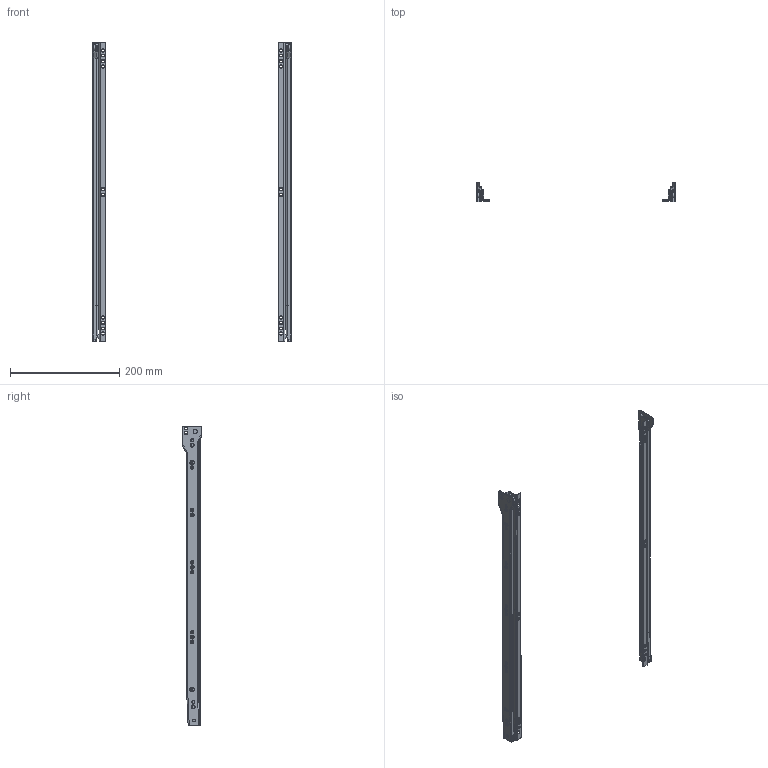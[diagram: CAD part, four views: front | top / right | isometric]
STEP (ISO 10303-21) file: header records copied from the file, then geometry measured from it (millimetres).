
FILE_DESCRIPTION(/* description */ (''),/* implementation_level */ '2;1');
FILE_NAME(/* name */ 'D:\$Workingspace\Designs\Katalog\Cadsoft\GTV Prowadnice\Prowadnice GTV_bryły 3D\PR-0B-550-10.stp',/* time_stamp */ '2016-11-22T15:18:06+01:00',/* author */ ('tomaszw'),/* organization */ (''),/* preprocessor_version */ 'ST-DEVELOPER v16.1',/* originating_system */ 'Autodesk Inventor 2016',/* authorisation */ '');
FILE_SCHEMA (('AUTOMOTIVE_DESIGN { 1 0 10303 214 3 1 1 }'));
Length unit declared in the file: millimetre
Products named in the file (5): PR-0B-550-10_CL; PR-0B-550-10_CR; PR-0B-550-10_DL; PR-0B-550-10_DR; PR-0B
Assembly tree (4 placements, depth 2):
  PR-0B
    PR-0B-550-10_CL
    PR-0B-550-10_CR
    PR-0B-550-10_DL
    PR-0B-550-10_DR
Bounding box: 364 x 36 x 550.01 mm (x, y, z)
Volume: 78871.5 mm3; surface area: 169905.9 mm2
Topology: 4 solids, 4 shells, 434 faces, 1086 edges, 672 vertices
Faces by surface type: cylinder 190, plane 154, cone 54, torus 28, sphere 8
Full cylindrical faces by diameter (mm): 5 x2, 5.2 x26, 5.4 x10, 6.2 x10, 7 x4, 8 x4, 18.5 x4
Entity records: 13214 total; most frequent: DIRECTION 2288, CARTESIAN_POINT 2239, ORIENTED_EDGE 1928, EDGE_CURVE 964, AXIS2_PLACEMENT_3D 889, EDGE_LOOP 684, VERTEX_POINT 664, LINE 510
